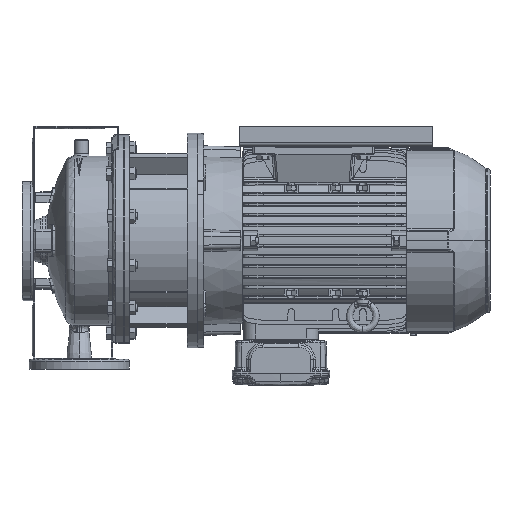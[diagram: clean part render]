
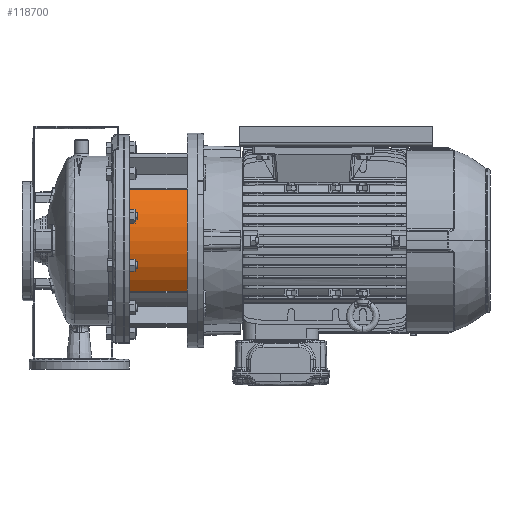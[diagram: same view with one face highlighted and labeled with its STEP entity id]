
A CAD part, left-side view. The second image highlights one B-rep face of the part: STEP entity #118700.
In plain terms, the highlighted cylindrical face has radius 112.5 mm (diameter 225 mm), a partial arc.
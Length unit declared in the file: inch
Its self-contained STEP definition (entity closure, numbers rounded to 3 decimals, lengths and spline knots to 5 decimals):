
#618 = ORIENTED_EDGE ( 'NONE', *, *, #4503, .T. ) ;
#1537 = LINE ( 'NONE', #43356, #132602 ) ;
#1840 = CIRCLE ( 'NONE', #79710, 4.42913 ) ;
#4503 = EDGE_CURVE ( 'NONE', #29063, #124971, #1537, .T. ) ;
#13166 = AXIS2_PLACEMENT_3D ( 'NONE', #99392, #46467, #88934 ) ;
#15345 = CIRCLE ( 'NONE', #13166, 4.42913 ) ;
#16277 = EDGE_CURVE ( 'NONE', #75285, #50384, #37913, .T. ) ;
#16332 = CARTESIAN_POINT ( 'NONE',  ( -3.44208, -0.7874, 2.78734 ) ) ;
#16829 = VECTOR ( 'NONE', #58836, 39.37008 ) ;
#19851 = ORIENTED_EDGE ( 'NONE', *, *, #21498, .T. ) ;
#21498 = EDGE_CURVE ( 'NONE', #124971, #50384, #15345, .T. ) ;
#23151 = DIRECTION ( 'NONE',  ( 0., -1., 0. ) ) ;
#29063 = VERTEX_POINT ( 'NONE', #44480 ) ;
#33336 = DIRECTION ( 'NONE',  ( 1., 0., 0. ) ) ;
#37819 = CARTESIAN_POINT ( 'NONE',  ( 0., -0.7874, 0. ) ) ;
#37913 = LINE ( 'NONE', #16332, #16829 ) ;
#39515 = ORIENTED_EDGE ( 'NONE', *, *, #123234, .F. ) ;
#42047 = CARTESIAN_POINT ( 'NONE',  ( -3.44208, -3.97638, -2.78734 ) ) ;
#43356 = CARTESIAN_POINT ( 'NONE',  ( -3.44208, -0.7874, -2.78734 ) ) ;
#44480 = CARTESIAN_POINT ( 'NONE',  ( -3.44208, -0.7874, -2.78734 ) ) ;
#46467 = DIRECTION ( 'NONE',  ( 0., 1., 0. ) ) ;
#48245 = CARTESIAN_POINT ( 'NONE',  ( -3.44208, -3.97638, 2.78734 ) ) ;
#50384 = VERTEX_POINT ( 'NONE', #48245 ) ;
#53536 = FACE_OUTER_BOUND ( 'NONE', #94931, .T. ) ;
#58836 = DIRECTION ( 'NONE',  ( 0., -1., 0. ) ) ;
#65365 = DIRECTION ( 'NONE',  ( 0., -1., 0. ) ) ;
#75285 = VERTEX_POINT ( 'NONE', #119449 ) ;
#75823 = CARTESIAN_POINT ( 'NONE',  ( 0., -0.7874, 0. ) ) ;
#79710 = AXIS2_PLACEMENT_3D ( 'NONE', #37819, #112333, #101173 ) ;
#88934 = DIRECTION ( 'NONE',  ( -0.777, 0., -0.629 ) ) ;
#94931 = EDGE_LOOP ( 'NONE', ( #618, #19851, #125804, #39515 ) ) ;
#96696 = CYLINDRICAL_SURFACE ( 'NONE', #123340, 4.42913 ) ;
#99392 = CARTESIAN_POINT ( 'NONE',  ( 0., -3.97638, 0. ) ) ;
#101173 = DIRECTION ( 'NONE',  ( -0.777, 0., -0.629 ) ) ;
#112333 = DIRECTION ( 'NONE',  ( 0., 1., 0. ) ) ;
#118700 = ADVANCED_FACE ( 'NONE', ( #53536 ), #96696, .T. ) ;
#119449 = CARTESIAN_POINT ( 'NONE',  ( -3.44208, -0.7874, 2.78734 ) ) ;
#123234 = EDGE_CURVE ( 'NONE', #29063, #75285, #1840, .T. ) ;
#123340 = AXIS2_PLACEMENT_3D ( 'NONE', #75823, #65365, #33336 ) ;
#124971 = VERTEX_POINT ( 'NONE', #42047 ) ;
#125804 = ORIENTED_EDGE ( 'NONE', *, *, #16277, .F. ) ;
#132602 = VECTOR ( 'NONE', #23151, 39.37008 ) ;
